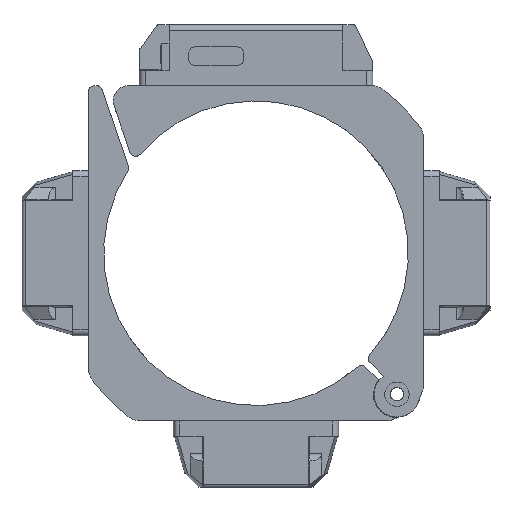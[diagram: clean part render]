
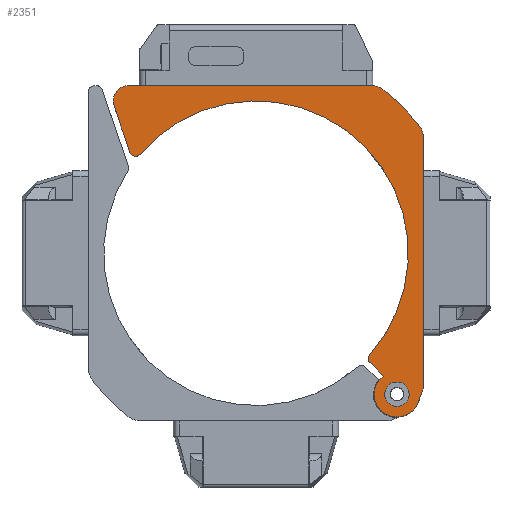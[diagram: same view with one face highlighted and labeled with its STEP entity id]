
A CAD part, left-side view. The second image highlights one B-rep face of the part: STEP entity #2351.
In plain terms, the highlighted planar face has unit normal (-1, 0, 0).
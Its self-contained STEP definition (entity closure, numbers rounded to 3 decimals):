
#780=PLANE('',#8733);
#1361=LINE('',#14338,#1943);
#1362=LINE('',#14342,#1944);
#1363=LINE('',#14346,#1945);
#1364=LINE('',#14354,#1946);
#1365=LINE('',#14358,#1947);
#1366=LINE('',#14366,#1948);
#1943=VECTOR('',#10704,1.);
#1944=VECTOR('',#10709,1.);
#1945=VECTOR('',#10712,1.);
#1946=VECTOR('',#10719,1.);
#1947=VECTOR('',#10722,1.);
#1948=VECTOR('',#10729,1.);
#2351=ADVANCED_FACE('',(#2875,#2876),#780,.F.);
#2875=FACE_BOUND('',#3531,.T.);
#2876=FACE_BOUND('',#3532,.T.);
#3531=EDGE_LOOP('',(#5641));
#3532=EDGE_LOOP('',(#5642,#5643,#5644,#5645,#5646,#5647,#5648,#5649,#5650,
#5651,#5652,#5653,#5654,#5655,#5656));
#5641=ORIENTED_EDGE('',*,*,#7639,.T.);
#5642=ORIENTED_EDGE('',*,*,#7640,.F.);
#5643=ORIENTED_EDGE('',*,*,#7641,.T.);
#5644=ORIENTED_EDGE('',*,*,#7642,.F.);
#5645=ORIENTED_EDGE('',*,*,#7643,.T.);
#5646=ORIENTED_EDGE('',*,*,#7644,.F.);
#5647=ORIENTED_EDGE('',*,*,#7645,.T.);
#5648=ORIENTED_EDGE('',*,*,#7646,.F.);
#5649=ORIENTED_EDGE('',*,*,#7647,.T.);
#5650=ORIENTED_EDGE('',*,*,#7648,.T.);
#5651=ORIENTED_EDGE('',*,*,#7649,.T.);
#5652=ORIENTED_EDGE('',*,*,#7650,.T.);
#5653=ORIENTED_EDGE('',*,*,#7651,.T.);
#5654=ORIENTED_EDGE('',*,*,#7652,.T.);
#5655=ORIENTED_EDGE('',*,*,#7638,.T.);
#5656=ORIENTED_EDGE('',*,*,#7633,.F.);
#6555=VERTEX_POINT('',#14326);
#6557=VERTEX_POINT('',#14329);
#6559=VERTEX_POINT('',#14335);
#6561=VERTEX_POINT('',#14341);
#6562=VERTEX_POINT('',#14343);
#6563=VERTEX_POINT('',#14345);
#6564=VERTEX_POINT('',#14347);
#6565=VERTEX_POINT('',#14349);
#6566=VERTEX_POINT('',#14351);
#6567=VERTEX_POINT('',#14353);
#6568=VERTEX_POINT('',#14355);
#6569=VERTEX_POINT('',#14357);
#6570=VERTEX_POINT('',#14359);
#6571=VERTEX_POINT('',#14361);
#6572=VERTEX_POINT('',#14363);
#6573=VERTEX_POINT('',#14365);
#7633=EDGE_CURVE('',#6555,#6557,#8011,.T.);
#7638=EDGE_CURVE('',#6559,#6557,#1361,.T.);
#7639=EDGE_CURVE('',#6561,#6561,#8012,.T.);
#7640=EDGE_CURVE('',#6562,#6555,#1362,.T.);
#7641=EDGE_CURVE('',#6562,#6563,#8013,.T.);
#7642=EDGE_CURVE('',#6564,#6563,#1363,.T.);
#7643=EDGE_CURVE('',#6564,#6565,#8014,.T.);
#7644=EDGE_CURVE('',#6566,#6565,#8015,.T.);
#7645=EDGE_CURVE('',#6566,#6567,#8016,.T.);
#7646=EDGE_CURVE('',#6568,#6567,#1364,.T.);
#7647=EDGE_CURVE('',#6568,#6569,#8017,.T.);
#7648=EDGE_CURVE('',#6569,#6570,#1365,.T.);
#7649=EDGE_CURVE('',#6570,#6571,#8018,.T.);
#7650=EDGE_CURVE('',#6571,#6572,#8019,.T.);
#7651=EDGE_CURVE('',#6572,#6573,#8020,.T.);
#7652=EDGE_CURVE('',#6573,#6559,#1366,.T.);
#8011=CIRCLE('',#8720,3.75);
#8012=CIRCLE('',#8724,2.);
#8013=CIRCLE('',#8725,3.);
#8014=CIRCLE('',#8726,3.);
#8015=CIRCLE('',#8727,34.004);
#8016=CIRCLE('',#8728,3.);
#8017=CIRCLE('',#8729,2.5);
#8018=CIRCLE('',#8730,1.);
#8019=CIRCLE('',#8731,25.);
#8020=CIRCLE('',#8732,1.);
#8720=AXIS2_PLACEMENT_3D('',#14328,#10695,#10696);
#8724=AXIS2_PLACEMENT_3D('',#14340,#10707,#10708);
#8725=AXIS2_PLACEMENT_3D('',#14344,#10710,#10711);
#8726=AXIS2_PLACEMENT_3D('',#14348,#10713,#10714);
#8727=AXIS2_PLACEMENT_3D('',#14350,#10715,#10716);
#8728=AXIS2_PLACEMENT_3D('',#14352,#10717,#10718);
#8729=AXIS2_PLACEMENT_3D('',#14356,#10720,#10721);
#8730=AXIS2_PLACEMENT_3D('',#14360,#10723,#10724);
#8731=AXIS2_PLACEMENT_3D('',#14362,#10725,#10726);
#8732=AXIS2_PLACEMENT_3D('',#14364,#10727,#10728);
#8733=AXIS2_PLACEMENT_3D('',#14367,#10730,#10731);
#10695=DIRECTION('',(1.,0.,0.));
#10696=DIRECTION('',(0.,1.,0.));
#10704=DIRECTION('',(0.,0.707,-0.707));
#10707=DIRECTION('',(1.,0.,0.));
#10708=DIRECTION('',(0.,0.,1.));
#10709=DIRECTION('',(0.,0.334,-0.943));
#10710=DIRECTION('',(-1.,0.,0.));
#10711=DIRECTION('',(0.,1.,0.));
#10712=DIRECTION('',(0.,0.,-1.));
#10713=DIRECTION('',(-1.,0.,0.));
#10714=DIRECTION('',(0.,1.,0.));
#10715=DIRECTION('',(1.,0.,0.));
#10716=DIRECTION('',(0.,0.,1.));
#10717=DIRECTION('',(-1.,0.,0.));
#10718=DIRECTION('',(0.,1.,0.));
#10719=DIRECTION('',(0.,-1.,0.));
#10720=DIRECTION('',(-1.,0.,0.));
#10721=DIRECTION('',(0.,1.,0.));
#10722=DIRECTION('',(0.,-0.326,-0.946));
#10723=DIRECTION('',(-1.,0.,0.));
#10724=DIRECTION('',(0.,1.,0.));
#10725=DIRECTION('',(1.,0.,0.));
#10726=DIRECTION('',(0.,0.,1.));
#10727=DIRECTION('',(-1.,0.,0.));
#10728=DIRECTION('',(0.,1.,0.));
#10729=DIRECTION('',(0.,-0.707,-0.707));
#10730=DIRECTION('',(1.,0.,0.));
#10731=DIRECTION('',(0.,1.,0.));
#14326=CARTESIAN_POINT('',(-2.326,-22.441,-21.35));
#14328=CARTESIAN_POINT('',(-2.326,-18.906,-20.098));
#14329=CARTESIAN_POINT('',(-2.326,-15.925,-17.824));
#14335=CARTESIAN_POINT('',(-2.326,-16.632,-17.117));
#14338=CARTESIAN_POINT('',(-2.326,-16.632,-17.117));
#14340=CARTESIAN_POINT('',(-2.326,-18.906,-20.098));
#14341=CARTESIAN_POINT('',(-2.326,-18.906,-18.098));
#14342=CARTESIAN_POINT('',(-2.326,-23.276,-18.994));
#14343=CARTESIAN_POINT('',(-2.326,-23.104,-19.48));
#14344=CARTESIAN_POINT('',(-2.326,-20.276,-18.478));
#14345=CARTESIAN_POINT('',(-2.326,-23.276,-18.478));
#14346=CARTESIAN_POINT('',(-2.326,-23.276,23.032));
#14347=CARTESIAN_POINT('',(-2.326,-23.276,22.032));
#14348=CARTESIAN_POINT('',(-2.326,-20.276,22.032));
#14349=CARTESIAN_POINT('',(-2.326,-22.647,23.87));
#14350=CARTESIAN_POINT('',(-2.326,4.224,3.032));
#14351=CARTESIAN_POINT('',(-2.326,-16.614,29.903));
#14352=CARTESIAN_POINT('',(-2.326,-14.775,27.532));
#14353=CARTESIAN_POINT('',(-2.326,-14.775,30.532));
#14354=CARTESIAN_POINT('',(-2.326,31.724,30.532));
#14355=CARTESIAN_POINT('',(-2.326,25.162,30.532));
#14356=CARTESIAN_POINT('',(-2.326,25.162,28.032));
#14357=CARTESIAN_POINT('',(-2.326,27.525,27.218));
#14358=CARTESIAN_POINT('',(-2.326,28.666,30.532));
#14359=CARTESIAN_POINT('',(-2.326,24.911,19.626));
#14360=CARTESIAN_POINT('',(-2.326,23.966,19.952));
#14361=CARTESIAN_POINT('',(-2.326,23.206,19.301));
#14362=CARTESIAN_POINT('',(-2.326,4.224,3.032));
#14363=CARTESIAN_POINT('',(-2.326,-14.444,-13.596));
#14364=CARTESIAN_POINT('',(-2.326,-15.191,-14.261));
#14365=CARTESIAN_POINT('',(-2.326,-14.484,-14.968));
#14366=CARTESIAN_POINT('',(-2.326,-13.804,-14.288));
#14367=CARTESIAN_POINT('',(-2.326,4.224,3.032));
